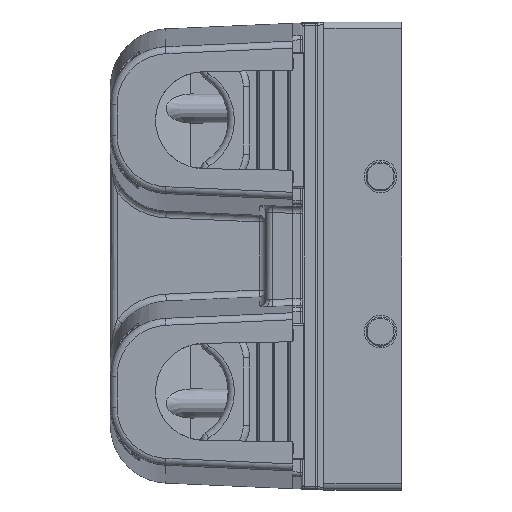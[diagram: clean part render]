
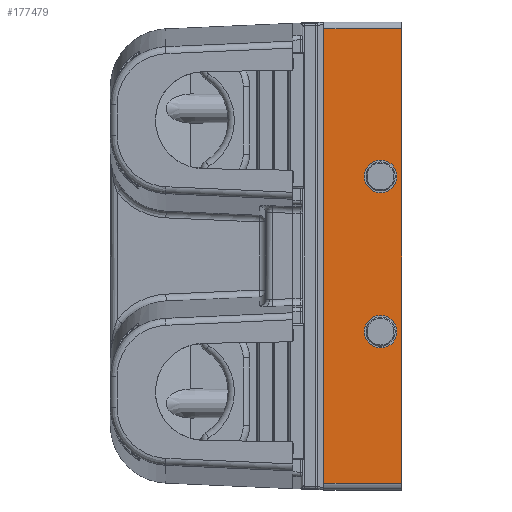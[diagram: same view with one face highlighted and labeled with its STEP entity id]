
A CAD part, left-side view. The second image highlights one B-rep face of the part: STEP entity #177479.
In plain terms, the highlighted planar face has unit normal (-1, 0, 0).
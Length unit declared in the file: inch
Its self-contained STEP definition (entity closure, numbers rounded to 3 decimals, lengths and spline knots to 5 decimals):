
#332 = CARTESIAN_POINT ( 'NONE',  ( -1.42, 0., -2.925 ) ) ;
#3493 = EDGE_CURVE ( 'NONE', #265092, #19438, #141725, .T. ) ;
#6648 = VECTOR ( 'NONE', #158816, 39.37008 ) ;
#9395 = ORIENTED_EDGE ( 'NONE', *, *, #143754, .T. ) ;
#10197 = AXIS2_PLACEMENT_3D ( 'NONE', #29459, #309528, #223564 ) ;
#18145 = DIRECTION ( 'NONE',  ( 0., 1., 0. ) ) ;
#19438 = VERTEX_POINT ( 'NONE', #21493 ) ;
#21493 = CARTESIAN_POINT ( 'NONE',  ( -1.42, 1., -2.925 ) ) ;
#22019 = EDGE_LOOP ( 'NONE', ( #9395, #107384 ) ) ;
#22984 = CIRCLE ( 'NONE', #128165, 0.21 ) ;
#25246 = VECTOR ( 'NONE', #18145, 39.37008 ) ;
#29459 = CARTESIAN_POINT ( 'NONE',  ( -1.42, 0., 3.015 ) ) ;
#31859 = DIRECTION ( 'NONE',  ( 0., 0., -1. ) ) ;
#54458 = EDGE_CURVE ( 'NONE', #71756, #314480, #228916, .T. ) ;
#58391 = DIRECTION ( 'NONE',  ( 1., 0., 0. ) ) ;
#59592 = VERTEX_POINT ( 'NONE', #63321 ) ;
#59880 = CARTESIAN_POINT ( 'NONE',  ( -1.42, 0.27, -0.765 ) ) ;
#62384 = FACE_OUTER_BOUND ( 'NONE', #346272, .T. ) ;
#63321 = CARTESIAN_POINT ( 'NONE',  ( -1.42, 0.27, 1.235 ) ) ;
#64636 = VERTEX_POINT ( 'NONE', #95964 ) ;
#71756 = VERTEX_POINT ( 'NONE', #92416 ) ;
#74839 = CARTESIAN_POINT ( 'NONE',  ( -1.42, 0., -2.925 ) ) ;
#76061 = DIRECTION ( 'NONE',  ( 1., 0., 0. ) ) ;
#81216 = VECTOR ( 'NONE', #256364, 39.37008 ) ;
#92416 = CARTESIAN_POINT ( 'NONE',  ( -1.42, 0., 2.925 ) ) ;
#95964 = CARTESIAN_POINT ( 'NONE',  ( -1.42, 0.27, 0.815 ) ) ;
#105614 = VERTEX_POINT ( 'NONE', #59880 ) ;
#107384 = ORIENTED_EDGE ( 'NONE', *, *, #268549, .T. ) ;
#111995 = PLANE ( 'NONE',  #10197 ) ;
#114827 = ORIENTED_EDGE ( 'NONE', *, *, #333060, .T. ) ;
#128165 = AXIS2_PLACEMENT_3D ( 'NONE', #193010, #76061, #304692 ) ;
#133488 = CARTESIAN_POINT ( 'NONE',  ( -1.42, 0., 2.925 ) ) ;
#141441 = DIRECTION ( 'NONE',  ( 0., 0., -1. ) ) ;
#141725 = LINE ( 'NONE', #253387, #361783 ) ;
#143754 = EDGE_CURVE ( 'NONE', #64636, #59592, #151412, .T. ) ;
#146484 = CARTESIAN_POINT ( 'NONE',  ( -1.42, 0., 3.015 ) ) ;
#151412 = CIRCLE ( 'NONE', #356188, 0.21 ) ;
#157969 = EDGE_CURVE ( 'NONE', #19438, #314480, #213890, .T. ) ;
#158816 = DIRECTION ( 'NONE',  ( 0., -1., 0. ) ) ;
#167353 = ORIENTED_EDGE ( 'NONE', *, *, #348310, .T. ) ;
#177479 = ADVANCED_FACE ( 'NONE', ( #278469, #336994, #62384 ), #111995, .F. ) ;
#193010 = CARTESIAN_POINT ( 'NONE',  ( -1.42, 0.27, 1.025 ) ) ;
#213890 = LINE ( 'NONE', #74839, #6648 ) ;
#215603 = ORIENTED_EDGE ( 'NONE', *, *, #361993, .T. ) ;
#216421 = DIRECTION ( 'NONE',  ( 1., 0., 0. ) ) ;
#223564 = DIRECTION ( 'NONE',  ( 0., 0., -1. ) ) ;
#224030 = CIRCLE ( 'NONE', #346881, 0.21 ) ;
#226426 = CARTESIAN_POINT ( 'NONE',  ( -1.42, 0.27, -1.185 ) ) ;
#226743 = DIRECTION ( 'NONE',  ( 0., 0., -1. ) ) ;
#228916 = LINE ( 'NONE', #146484, #81216 ) ;
#242114 = CIRCLE ( 'NONE', #259615, 0.21 ) ;
#243231 = ORIENTED_EDGE ( 'NONE', *, *, #3493, .T. ) ;
#253387 = CARTESIAN_POINT ( 'NONE',  ( -1.42, 1., 3.015 ) ) ;
#254205 = CARTESIAN_POINT ( 'NONE',  ( -1.42, 1., 2.925 ) ) ;
#256364 = DIRECTION ( 'NONE',  ( 0., 0., -1. ) ) ;
#259615 = AXIS2_PLACEMENT_3D ( 'NONE', #287864, #340932, #141441 ) ;
#265092 = VERTEX_POINT ( 'NONE', #254205 ) ;
#267422 = ORIENTED_EDGE ( 'NONE', *, *, #157969, .T. ) ;
#268549 = EDGE_CURVE ( 'NONE', #59592, #64636, #22984, .T. ) ;
#278469 = FACE_BOUND ( 'NONE', #314152, .T. ) ;
#287864 = CARTESIAN_POINT ( 'NONE',  ( -1.42, 0.27, -0.975 ) ) ;
#294599 = VERTEX_POINT ( 'NONE', #226426 ) ;
#298281 = LINE ( 'NONE', #133488, #25246 ) ;
#304692 = DIRECTION ( 'NONE',  ( 0., 0., -1. ) ) ;
#305525 = CARTESIAN_POINT ( 'NONE',  ( -1.42, 0.27, 1.025 ) ) ;
#309528 = DIRECTION ( 'NONE',  ( 1., 0., 0. ) ) ;
#314152 = EDGE_LOOP ( 'NONE', ( #215603, #167353 ) ) ;
#314480 = VERTEX_POINT ( 'NONE', #332 ) ;
#324409 = CARTESIAN_POINT ( 'NONE',  ( -1.42, 0.27, -0.975 ) ) ;
#329796 = DIRECTION ( 'NONE',  ( 0., 0., -1. ) ) ;
#333060 = EDGE_CURVE ( 'NONE', #71756, #265092, #298281, .T. ) ;
#336994 = FACE_BOUND ( 'NONE', #22019, .T. ) ;
#340932 = DIRECTION ( 'NONE',  ( 1., 0., 0. ) ) ;
#346272 = EDGE_LOOP ( 'NONE', ( #347672, #114827, #243231, #267422 ) ) ;
#346881 = AXIS2_PLACEMENT_3D ( 'NONE', #324409, #216421, #329796 ) ;
#347672 = ORIENTED_EDGE ( 'NONE', *, *, #54458, .F. ) ;
#348310 = EDGE_CURVE ( 'NONE', #105614, #294599, #224030, .T. ) ;
#356188 = AXIS2_PLACEMENT_3D ( 'NONE', #305525, #58391, #226743 ) ;
#361783 = VECTOR ( 'NONE', #31859, 39.37008 ) ;
#361993 = EDGE_CURVE ( 'NONE', #294599, #105614, #242114, .T. ) ;
